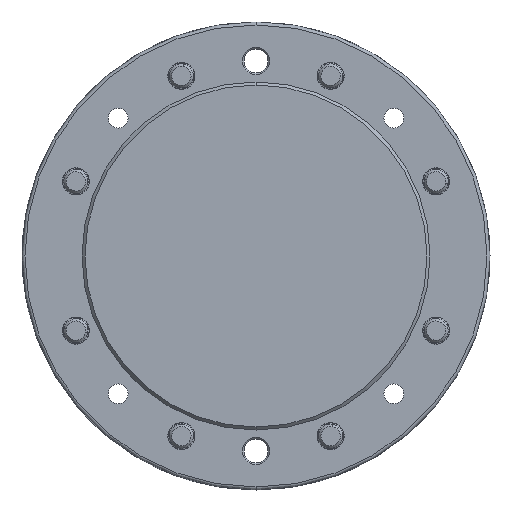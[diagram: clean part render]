
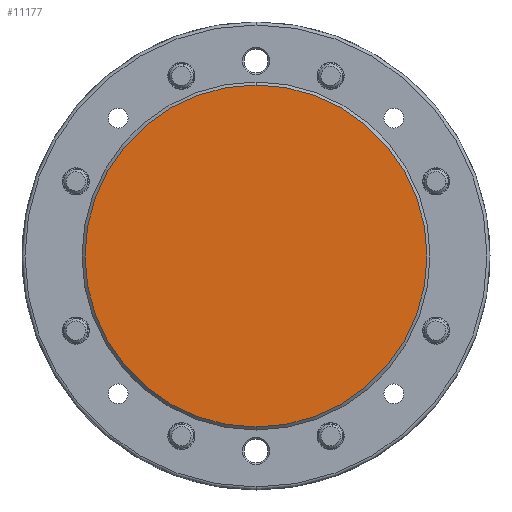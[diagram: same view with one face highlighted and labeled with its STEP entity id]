
A CAD part, front view. The second image highlights one B-rep face of the part: STEP entity #11177.
In plain terms, the highlighted planar face has unit normal (0, -1, 0).
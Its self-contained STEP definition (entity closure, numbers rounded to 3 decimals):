
#648 = CARTESIAN_POINT ( 'NONE',  ( 10.711, 34.671, 63.492 ) ) ;
#1376 = CARTESIAN_POINT ( 'NONE',  ( 10.711, 34.671, 34.992 ) ) ;
#1848 = ORIENTED_EDGE ( 'NONE', *, *, #13124, .T. ) ;
#1892 = CARTESIAN_POINT ( 'NONE',  ( -18.289, 34.671, 63.492 ) ) ;
#1895 = DIRECTION ( 'NONE',  ( 0., 0., -1. ) ) ;
#2294 = CARTESIAN_POINT ( 'NONE',  ( 10.711, 34.671, 91.992 ) ) ;
#2435 = VERTEX_POINT ( 'NONE', #2294 ) ;
#2687 = AXIS2_PLACEMENT_3D ( 'NONE', #648, #9189, #1895 ) ;
#3110 = DIRECTION ( 'NONE',  ( 0., 0., -1. ) ) ;
#5195 = CIRCLE ( 'NONE', #5270, 28.5 ) ;
#5270 = AXIS2_PLACEMENT_3D ( 'NONE', #6320, #14688, #7528 ) ;
#5492 = EDGE_CURVE ( 'NONE', #2435, #6364, #8220, .T. ) ;
#6320 = CARTESIAN_POINT ( 'NONE',  ( 10.711, 34.671, 63.492 ) ) ;
#6364 = VERTEX_POINT ( 'NONE', #1376 ) ;
#6676 = EDGE_LOOP ( 'NONE', ( #13397, #1848 ) ) ;
#7528 = DIRECTION ( 'NONE',  ( 0., 0., -1. ) ) ;
#7865 = AXIS2_PLACEMENT_3D ( 'NONE', #1892, #10379, #3110 ) ;
#8220 = CIRCLE ( 'NONE', #2687, 28.5 ) ;
#9189 = DIRECTION ( 'NONE',  ( 0., -1., 0. ) ) ;
#10379 = DIRECTION ( 'NONE',  ( 0., -1., 0. ) ) ;
#11177 = ADVANCED_FACE ( 'NONE', ( #13875 ), #15108, .T. ) ;
#13124 = EDGE_CURVE ( 'NONE', #6364, #2435, #5195, .T. ) ;
#13397 = ORIENTED_EDGE ( 'NONE', *, *, #5492, .T. ) ;
#13875 = FACE_OUTER_BOUND ( 'NONE', #6676, .T. ) ;
#14688 = DIRECTION ( 'NONE',  ( 0., -1., 0. ) ) ;
#15108 = PLANE ( 'NONE',  #7865 ) ;
